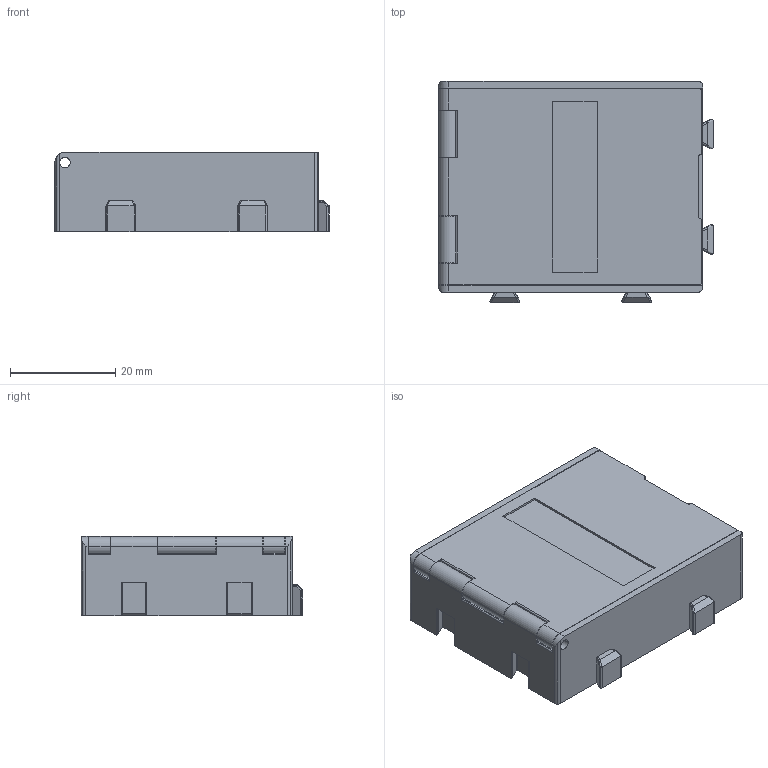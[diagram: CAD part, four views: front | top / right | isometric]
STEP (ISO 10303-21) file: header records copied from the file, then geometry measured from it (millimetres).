
FILE_DESCRIPTION(('STEP AP214'),'1');
FILE_NAME('mod_40x50x15.stp','2022-08-06T15:03:53',(' '),(' '),'Spatial InterOp 3D',' ',' ');
FILE_SCHEMA(('AUTOMOTIVE_DESIGN { 1 0 10303 214 1 1 1 1 }'));
Length unit declared in the file: metre
Products named in the file (1): Box
Bounding box: 52 x 42 x 15 mm (x, y, z)
Volume: 8331.6 mm3; surface area: 13554.3 mm2
Topology: 2 solids, 6 shells, 333 faces, 939 edges, 619 vertices
Faces by surface type: cylinder 180, plane 121, torus 16, cone 16
Entity records: 11299 total; most frequent: CARTESIAN_POINT 2367, DIRECTION 1928, ORIENTED_EDGE 1878, EDGE_CURVE 939, AXIS2_PLACEMENT_3D 710, VERTEX_POINT 619, LINE 508, VECTOR 508
